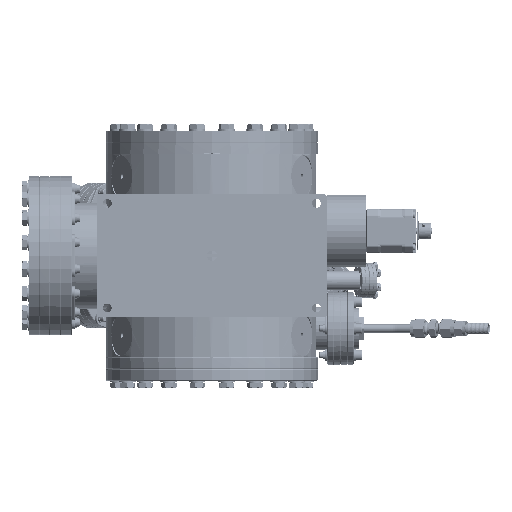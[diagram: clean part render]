
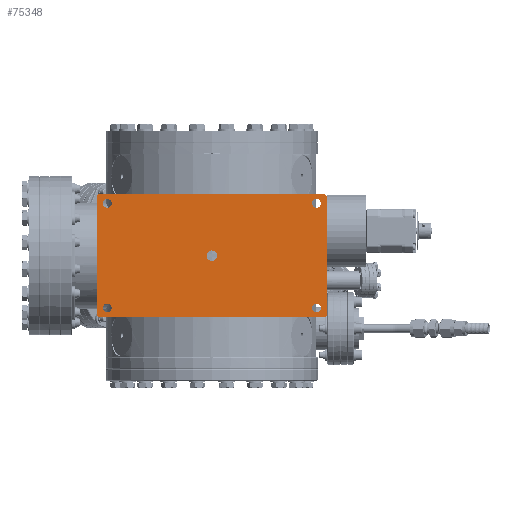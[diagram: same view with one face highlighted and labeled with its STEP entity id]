
A CAD part, front view. The second image highlights one B-rep face of the part: STEP entity #75348.
In plain terms, the highlighted planar face has unit normal (0, -1, 0) as drawn and (0, 0, -1) by its records, which use the part's own axes.
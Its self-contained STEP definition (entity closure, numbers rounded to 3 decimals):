
#7668=FACE_BOUND('',#14179,.T.);
#7669=FACE_BOUND('',#14180,.T.);
#7670=FACE_BOUND('',#14181,.T.);
#7671=FACE_BOUND('',#14182,.T.);
#7672=FACE_BOUND('',#14183,.T.);
#10022=FACE_OUTER_BOUND('',#14178,.T.);
#14178=EDGE_LOOP('',(#53635,#53636,#53637,#53638,#53639,#53640,#53641,#53642));
#14179=EDGE_LOOP('',(#53643,#53644));
#14180=EDGE_LOOP('',(#53645,#53646));
#14181=EDGE_LOOP('',(#53647,#53648));
#14182=EDGE_LOOP('',(#53649,#53650));
#14183=EDGE_LOOP('',(#53651,#53652));
#18915=CIRCLE('',#80959,5.);
#18916=CIRCLE('',#80960,5.);
#18917=CIRCLE('',#80962,4.25);
#18918=CIRCLE('',#80963,4.25);
#18921=CIRCLE('',#80967,4.25);
#18922=CIRCLE('',#80968,4.25);
#18925=CIRCLE('',#80972,4.25);
#18926=CIRCLE('',#80973,4.25);
#18929=CIRCLE('',#80977,4.25);
#18930=CIRCLE('',#80978,4.25);
#23676=LINE('',#117206,#28317);
#23679=LINE('',#117212,#28320);
#23682=LINE('',#117218,#28323);
#23685=LINE('',#117224,#28326);
#23686=LINE('',#117229,#28327);
#23688=LINE('',#117232,#28329);
#23689=LINE('',#117234,#28330);
#23690=LINE('',#117235,#28331);
#28317=VECTOR('',#90963,10.);
#28320=VECTOR('',#90968,10.);
#28323=VECTOR('',#90973,10.);
#28326=VECTOR('',#90980,10.);
#28327=VECTOR('',#90987,10.);
#28329=VECTOR('',#90991,10.);
#28330=VECTOR('',#90994,10.);
#28331=VECTOR('',#90995,10.);
#33175=VERTEX_POINT('',#117069);
#33176=VERTEX_POINT('',#117070);
#33179=VERTEX_POINT('',#117113);
#33180=VERTEX_POINT('',#117114);
#33183=VERTEX_POINT('',#117123);
#33184=VERTEX_POINT('',#117124);
#33187=VERTEX_POINT('',#117133);
#33188=VERTEX_POINT('',#117134);
#33191=VERTEX_POINT('',#117143);
#33192=VERTEX_POINT('',#117144);
#33215=VERTEX_POINT('',#117203);
#33216=VERTEX_POINT('',#117205);
#33217=VERTEX_POINT('',#117209);
#33218=VERTEX_POINT('',#117211);
#33219=VERTEX_POINT('',#117215);
#33220=VERTEX_POINT('',#117217);
#33221=VERTEX_POINT('',#117222);
#33222=VERTEX_POINT('',#117228);
#41211=EDGE_CURVE('',#33175,#33176,#18915,.T.);
#41212=EDGE_CURVE('',#33176,#33175,#18916,.T.);
#41216=EDGE_CURVE('',#33179,#33180,#18917,.T.);
#41217=EDGE_CURVE('',#33180,#33179,#18918,.T.);
#41221=EDGE_CURVE('',#33183,#33184,#18921,.T.);
#41222=EDGE_CURVE('',#33184,#33183,#18922,.T.);
#41226=EDGE_CURVE('',#33187,#33188,#18925,.T.);
#41227=EDGE_CURVE('',#33188,#33187,#18926,.T.);
#41231=EDGE_CURVE('',#33191,#33192,#18929,.T.);
#41232=EDGE_CURVE('',#33192,#33191,#18930,.T.);
#41261=EDGE_CURVE('',#33215,#33216,#23676,.T.);
#41264=EDGE_CURVE('',#33217,#33218,#23679,.T.);
#41267=EDGE_CURVE('',#33220,#33219,#23682,.T.);
#41271=EDGE_CURVE('',#33217,#33221,#23685,.T.);
#41273=EDGE_CURVE('',#33222,#33216,#23686,.T.);
#41275=EDGE_CURVE('',#33215,#33218,#23688,.T.);
#41276=EDGE_CURVE('',#33220,#33221,#23689,.T.);
#41277=EDGE_CURVE('',#33222,#33219,#23690,.T.);
#53635=ORIENTED_EDGE('',*,*,#41264,.F.);
#53636=ORIENTED_EDGE('',*,*,#41271,.T.);
#53637=ORIENTED_EDGE('',*,*,#41276,.F.);
#53638=ORIENTED_EDGE('',*,*,#41267,.T.);
#53639=ORIENTED_EDGE('',*,*,#41277,.F.);
#53640=ORIENTED_EDGE('',*,*,#41273,.T.);
#53641=ORIENTED_EDGE('',*,*,#41261,.F.);
#53642=ORIENTED_EDGE('',*,*,#41275,.T.);
#53643=ORIENTED_EDGE('',*,*,#41211,.T.);
#53644=ORIENTED_EDGE('',*,*,#41212,.T.);
#53645=ORIENTED_EDGE('',*,*,#41216,.T.);
#53646=ORIENTED_EDGE('',*,*,#41217,.T.);
#53647=ORIENTED_EDGE('',*,*,#41221,.T.);
#53648=ORIENTED_EDGE('',*,*,#41222,.T.);
#53649=ORIENTED_EDGE('',*,*,#41226,.T.);
#53650=ORIENTED_EDGE('',*,*,#41227,.T.);
#53651=ORIENTED_EDGE('',*,*,#41231,.T.);
#53652=ORIENTED_EDGE('',*,*,#41232,.T.);
#73448=PLANE('',#81000);
#75348=ADVANCED_FACE('',(#10022,#7668,#7669,#7670,#7671,#7672),#73448,.F.);
#80959=AXIS2_PLACEMENT_3D('',#117071,#90871,#90872);
#80960=AXIS2_PLACEMENT_3D('',#117072,#90873,#90874);
#80962=AXIS2_PLACEMENT_3D('',#117115,#90878,#90879);
#80963=AXIS2_PLACEMENT_3D('',#117116,#90880,#90881);
#80967=AXIS2_PLACEMENT_3D('',#117125,#90889,#90890);
#80968=AXIS2_PLACEMENT_3D('',#117126,#90891,#90892);
#80972=AXIS2_PLACEMENT_3D('',#117135,#90900,#90901);
#80973=AXIS2_PLACEMENT_3D('',#117136,#90902,#90903);
#80977=AXIS2_PLACEMENT_3D('',#117145,#90911,#90912);
#80978=AXIS2_PLACEMENT_3D('',#117146,#90913,#90914);
#81000=AXIS2_PLACEMENT_3D('',#117233,#90992,#90993);
#90871=DIRECTION('center_axis',(0.,0.,
1.));
#90872=DIRECTION('ref_axis',(-1.,0.,0.));
#90873=DIRECTION('center_axis',(0.,0.,
1.));
#90874=DIRECTION('ref_axis',(-1.,0.,0.));
#90878=DIRECTION('center_axis',(0.,0.,
1.));
#90879=DIRECTION('ref_axis',(-1.,0.,0.));
#90880=DIRECTION('center_axis',(0.,0.,
1.));
#90881=DIRECTION('ref_axis',(-1.,0.,0.));
#90889=DIRECTION('center_axis',(0.,0.,
1.));
#90890=DIRECTION('ref_axis',(-1.,0.,0.));
#90891=DIRECTION('center_axis',(0.,0.,
1.));
#90892=DIRECTION('ref_axis',(-1.,0.,0.));
#90900=DIRECTION('center_axis',(0.,0.,
1.));
#90901=DIRECTION('ref_axis',(-1.,0.,0.));
#90902=DIRECTION('center_axis',(0.,0.,
1.));
#90903=DIRECTION('ref_axis',(-1.,0.,0.));
#90911=DIRECTION('center_axis',(0.,0.,
1.));
#90912=DIRECTION('ref_axis',(-1.,0.,0.));
#90913=DIRECTION('center_axis',(0.,0.,
1.));
#90914=DIRECTION('ref_axis',(-1.,0.,0.));
#90963=DIRECTION('',(0.707,0.707,0.));
#90968=DIRECTION('',(0.707,-0.707,0.));
#90973=DIRECTION('',(1.,0.,0.));
#90980=DIRECTION('',(0.,1.,0.));
#90987=DIRECTION('',(0.,-1.,0.));
#90991=DIRECTION('',(-1.,0.,0.));
#90992=DIRECTION('center_axis',(0.,0.,
1.));
#90993=DIRECTION('ref_axis',(1.,0.,0.));
#90994=DIRECTION('',(-0.707,-0.707,0.));
#90995=DIRECTION('',(-0.707,0.707,0.));
#117069=CARTESIAN_POINT('',(-5.,0.,0.));
#117070=CARTESIAN_POINT('',(5.,0.,0.));
#117071=CARTESIAN_POINT('Origin',(0.,0.,
0.));
#117072=CARTESIAN_POINT('Origin',(0.,0.,
0.));
#117113=CARTESIAN_POINT('',(45.75,-100.,0.));
#117114=CARTESIAN_POINT('',(54.25,-100.,0.));
#117115=CARTESIAN_POINT('Origin',(50.,-100.,0.));
#117116=CARTESIAN_POINT('Origin',(50.,-100.,0.));
#117123=CARTESIAN_POINT('',(-54.25,100.,0.));
#117124=CARTESIAN_POINT('',(-45.75,100.,0.));
#117125=CARTESIAN_POINT('Origin',(-50.,100.,0.));
#117126=CARTESIAN_POINT('Origin',(-50.,100.,0.));
#117133=CARTESIAN_POINT('',(45.75,100.,0.));
#117134=CARTESIAN_POINT('',(54.25,100.,0.));
#117135=CARTESIAN_POINT('Origin',(50.,100.,0.));
#117136=CARTESIAN_POINT('Origin',(50.,100.,0.));
#117143=CARTESIAN_POINT('',(-54.25,-100.,0.));
#117144=CARTESIAN_POINT('',(-45.75,-100.,0.));
#117145=CARTESIAN_POINT('Origin',(-50.,-100.,0.));
#117146=CARTESIAN_POINT('Origin',(-50.,-100.,0.));
#117203=CARTESIAN_POINT('',(57.,-110.,0.));
#117205=CARTESIAN_POINT('',(59.,-108.,0.));
#117206=CARTESIAN_POINT('',(70.75,-96.25,0.));
#117209=CARTESIAN_POINT('',(-59.,-108.,0.));
#117211=CARTESIAN_POINT('',(-57.,-110.,0.));
#117212=CARTESIAN_POINT('',(-70.75,-96.25,0.));
#117215=CARTESIAN_POINT('',(57.,110.,0.));
#117217=CARTESIAN_POINT('',(-57.,110.,0.));
#117218=CARTESIAN_POINT('',(-59.,110.,0.));
#117222=CARTESIAN_POINT('',(-59.,108.,0.));
#117224=CARTESIAN_POINT('',(-59.,-110.,0.));
#117228=CARTESIAN_POINT('',(59.,108.,0.));
#117229=CARTESIAN_POINT('',(59.,110.,0.));
#117232=CARTESIAN_POINT('',(59.,-110.,0.));
#117233=CARTESIAN_POINT('Origin',(0.,0.,
0.));
#117234=CARTESIAN_POINT('',(-70.75,96.25,0.));
#117235=CARTESIAN_POINT('',(70.75,96.25,0.));
